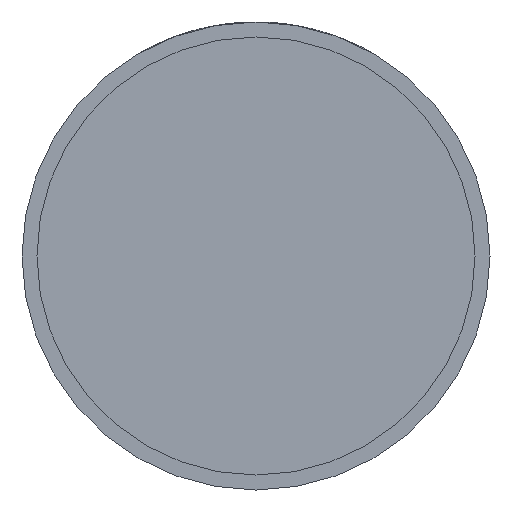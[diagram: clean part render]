
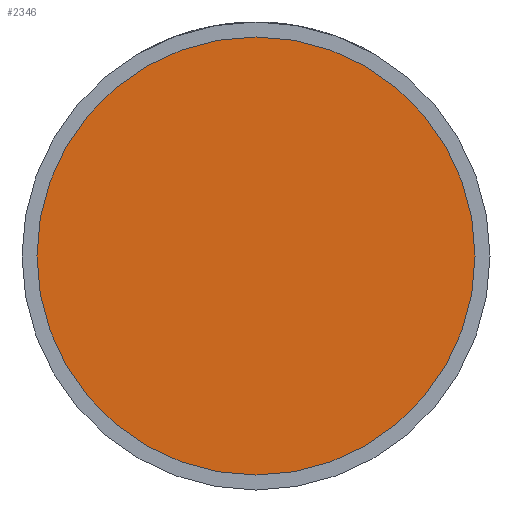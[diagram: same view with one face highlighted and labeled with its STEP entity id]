
A CAD part, front view. The second image highlights one B-rep face of the part: STEP entity #2346.
In plain terms, the highlighted planar face has unit normal (0, -1, 0).
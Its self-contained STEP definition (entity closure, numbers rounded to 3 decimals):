
#175 = DIRECTION ( 'NONE',  ( 1., 0., 0. ) ) ;
#324 = DIRECTION ( 'NONE',  ( 0., -1., 0. ) ) ;
#350 = AXIS2_PLACEMENT_3D ( 'NONE', #3961, #2862, #4271 ) ;
#530 = PLANE ( 'NONE',  #3017 ) ;
#672 = CARTESIAN_POINT ( 'NONE',  ( 0., -20., 0. ) ) ;
#1393 = EDGE_CURVE ( 'NONE', #2329, #3481, #2202, .T. ) ;
#1438 = EDGE_CURVE ( 'NONE', #3481, #2329, #3614, .T. ) ;
#1611 = ORIENTED_EDGE ( 'NONE', *, *, #1438, .T. ) ;
#2202 = CIRCLE ( 'NONE', #350, 33.7 ) ;
#2324 = CARTESIAN_POINT ( 'NONE',  ( 33.7, -20., 0. ) ) ;
#2329 = VERTEX_POINT ( 'NONE', #3477 ) ;
#2346 = ADVANCED_FACE ( 'NONE', ( #3149 ), #530, .T. ) ;
#2675 = DIRECTION ( 'NONE',  ( 1., 0., 0. ) ) ;
#2862 = DIRECTION ( 'NONE',  ( 0., -1., 0. ) ) ;
#2907 = EDGE_LOOP ( 'NONE', ( #1611, #4028 ) ) ;
#3017 = AXIS2_PLACEMENT_3D ( 'NONE', #3170, #3124, #175 ) ;
#3124 = DIRECTION ( 'NONE',  ( 0., -1., 0. ) ) ;
#3149 = FACE_OUTER_BOUND ( 'NONE', #2907, .T. ) ;
#3170 = CARTESIAN_POINT ( 'NONE',  ( 33.7, -20., 0. ) ) ;
#3477 = CARTESIAN_POINT ( 'NONE',  ( -33.7, -20., 0. ) ) ;
#3481 = VERTEX_POINT ( 'NONE', #2324 ) ;
#3614 = CIRCLE ( 'NONE', #4226, 33.7 ) ;
#3961 = CARTESIAN_POINT ( 'NONE',  ( 0., -20., 0. ) ) ;
#4028 = ORIENTED_EDGE ( 'NONE', *, *, #1393, .T. ) ;
#4226 = AXIS2_PLACEMENT_3D ( 'NONE', #672, #324, #2675 ) ;
#4271 = DIRECTION ( 'NONE',  ( 1., 0., 0. ) ) ;
